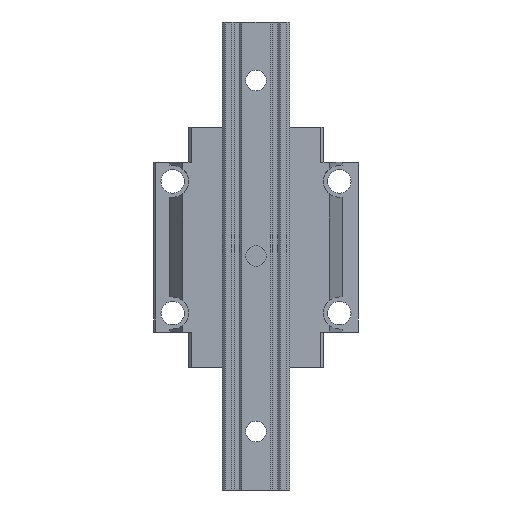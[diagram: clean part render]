
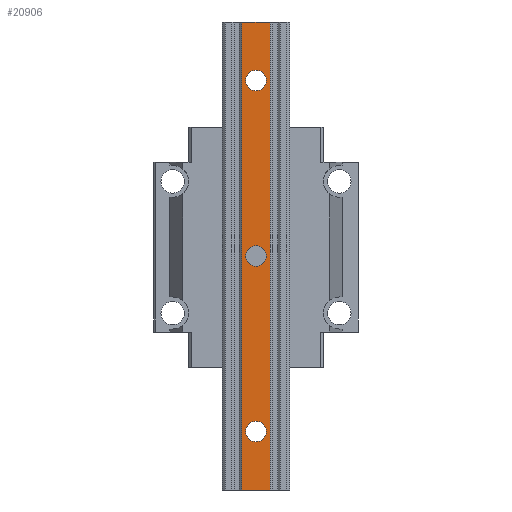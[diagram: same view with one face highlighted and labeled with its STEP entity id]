
A CAD part, front view. The second image highlights one B-rep face of the part: STEP entity #20906.
In plain terms, the highlighted planar face has unit normal (0, -1, 0).
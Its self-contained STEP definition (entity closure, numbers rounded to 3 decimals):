
#51 = DIRECTION ( 'NONE',  ( 0., 0., 1. ) ) ;
#143 = AXIS2_PLACEMENT_3D ( 'NONE', #9949, #12646, #23638 ) ;
#462 = AXIS2_PLACEMENT_3D ( 'NONE', #9806, #4100, #8806 ) ;
#514 = LINE ( 'NONE', #8845, #15425 ) ;
#544 = EDGE_CURVE ( 'NONE', #15741, #30303, #7466, .T. ) ;
#568 = ORIENTED_EDGE ( 'NONE', *, *, #6011, .T. ) ;
#813 = DIRECTION ( 'NONE',  ( 0., 0., -1. ) ) ;
#2301 = CARTESIAN_POINT ( 'NONE',  ( -4.929, 0., -460. ) ) ;
#2414 = CARTESIAN_POINT ( 'NONE',  ( 0., 0., -443.5 ) ) ;
#2555 = VECTOR ( 'NONE', #20830, 1000. ) ;
#2697 = CIRCLE ( 'NONE', #462, 3.5 ) ;
#3089 = CARTESIAN_POINT ( 'NONE',  ( -11.5, 0., -491.828 ) ) ;
#3358 = CIRCLE ( 'NONE', #23894, 3.5 ) ;
#3962 = DIRECTION ( 'NONE',  ( 0., 0., 1. ) ) ;
#4093 = EDGE_CURVE ( 'NONE', #30793, #27334, #19524, .T. ) ;
#4100 = DIRECTION ( 'NONE',  ( 0., 1., 0. ) ) ;
#4934 = VECTOR ( 'NONE', #3962, 1000. ) ;
#5513 = ORIENTED_EDGE ( 'NONE', *, *, #4093, .T. ) ;
#5676 = VERTEX_POINT ( 'NONE', #2414 ) ;
#5979 = AXIS2_PLACEMENT_3D ( 'NONE', #9877, #31322, #20831 ) ;
#6011 = EDGE_CURVE ( 'NONE', #30303, #12656, #23723, .T. ) ;
#6052 = EDGE_LOOP ( 'NONE', ( #6094, #5513 ) ) ;
#6094 = ORIENTED_EDGE ( 'NONE', *, *, #16249, .T. ) ;
#6548 = CARTESIAN_POINT ( 'NONE',  ( 0., 0., -316.5 ) ) ;
#6690 = EDGE_LOOP ( 'NONE', ( #32879, #33572 ) ) ;
#7466 = LINE ( 'NONE', #26560, #22968 ) ;
#8191 = CARTESIAN_POINT ( 'NONE',  ( 0., 0., -436.5 ) ) ;
#8806 = DIRECTION ( 'NONE',  ( 0., 0., 1. ) ) ;
#8845 = CARTESIAN_POINT ( 'NONE',  ( -4.929, 0., -491.828 ) ) ;
#9503 = VERTEX_POINT ( 'NONE', #32065 ) ;
#9593 = ORIENTED_EDGE ( 'NONE', *, *, #11628, .T. ) ;
#9742 = CIRCLE ( 'NONE', #18303, 3.5 ) ;
#9806 = CARTESIAN_POINT ( 'NONE',  ( 0., 0., -440. ) ) ;
#9830 = EDGE_CURVE ( 'NONE', #12656, #9503, #21178, .T. ) ;
#9877 = CARTESIAN_POINT ( 'NONE',  ( 0., 0., -320. ) ) ;
#9879 = VERTEX_POINT ( 'NONE', #27527 ) ;
#9923 = CARTESIAN_POINT ( 'NONE',  ( 4.929, 0., -300. ) ) ;
#9949 = CARTESIAN_POINT ( 'NONE',  ( 0., 0., -380. ) ) ;
#10050 = EDGE_LOOP ( 'NONE', ( #9593, #20740, #568, #11465 ) ) ;
#10376 = AXIS2_PLACEMENT_3D ( 'NONE', #3089, #17035, #813 ) ;
#10523 = DIRECTION ( 'NONE',  ( 0., 0., 1. ) ) ;
#11465 = ORIENTED_EDGE ( 'NONE', *, *, #9830, .T. ) ;
#11628 = EDGE_CURVE ( 'NONE', #9503, #15741, #514, .T. ) ;
#12646 = DIRECTION ( 'NONE',  ( 0., 1., 0. ) ) ;
#12656 = VERTEX_POINT ( 'NONE', #9923 ) ;
#14359 = FACE_BOUND ( 'NONE', #28611, .T. ) ;
#14938 = CARTESIAN_POINT ( 'NONE',  ( 0., 0., -383.5 ) ) ;
#15013 = CARTESIAN_POINT ( 'NONE',  ( 0., 0., -376.5 ) ) ;
#15021 = EDGE_CURVE ( 'NONE', #26183, #9879, #26593, .T. ) ;
#15425 = VECTOR ( 'NONE', #28118, 1000. ) ;
#15741 = VERTEX_POINT ( 'NONE', #2301 ) ;
#15820 = ORIENTED_EDGE ( 'NONE', *, *, #28364, .T. ) ;
#15887 = DIRECTION ( 'NONE',  ( 1., 0., 0. ) ) ;
#16124 = CARTESIAN_POINT ( 'NONE',  ( 0., 0., -440. ) ) ;
#16249 = EDGE_CURVE ( 'NONE', #27334, #30793, #9742, .T. ) ;
#16462 = DIRECTION ( 'NONE',  ( 0., 1., 0. ) ) ;
#17035 = DIRECTION ( 'NONE',  ( 0., -1., 0. ) ) ;
#17210 = PLANE ( 'NONE',  #10376 ) ;
#18303 = AXIS2_PLACEMENT_3D ( 'NONE', #33069, #16462, #51 ) ;
#19524 = CIRCLE ( 'NONE', #143, 3.5 ) ;
#20076 = FACE_BOUND ( 'NONE', #6690, .T. ) ;
#20740 = ORIENTED_EDGE ( 'NONE', *, *, #544, .T. ) ;
#20830 = DIRECTION ( 'NONE',  ( -1., 0., 0. ) ) ;
#20831 = DIRECTION ( 'NONE',  ( 0., 0., 1. ) ) ;
#20906 = ADVANCED_FACE ( 'NONE', ( #20076, #33281, #14359, #31093 ), #17210, .T. ) ;
#21178 = LINE ( 'NONE', #32206, #2555 ) ;
#22443 = DIRECTION ( 'NONE',  ( 0., 1., 0. ) ) ;
#22968 = VECTOR ( 'NONE', #15887, 1000. ) ;
#23638 = DIRECTION ( 'NONE',  ( 0., 0., 1. ) ) ;
#23723 = LINE ( 'NONE', #28625, #4934 ) ;
#23894 = AXIS2_PLACEMENT_3D ( 'NONE', #16124, #22443, #24429 ) ;
#23973 = AXIS2_PLACEMENT_3D ( 'NONE', #32488, #29477, #10523 ) ;
#24429 = DIRECTION ( 'NONE',  ( 0., 0., 1. ) ) ;
#26183 = VERTEX_POINT ( 'NONE', #6548 ) ;
#26560 = CARTESIAN_POINT ( 'NONE',  ( 0., 0., -460. ) ) ;
#26593 = CIRCLE ( 'NONE', #5979, 3.5 ) ;
#27311 = EDGE_CURVE ( 'NONE', #30394, #5676, #2697, .T. ) ;
#27334 = VERTEX_POINT ( 'NONE', #15013 ) ;
#27527 = CARTESIAN_POINT ( 'NONE',  ( 0., 0., -323.5 ) ) ;
#28118 = DIRECTION ( 'NONE',  ( 0., 0., -1. ) ) ;
#28364 = EDGE_CURVE ( 'NONE', #5676, #30394, #3358, .T. ) ;
#28611 = EDGE_LOOP ( 'NONE', ( #31351, #15820 ) ) ;
#28625 = CARTESIAN_POINT ( 'NONE',  ( 4.929, 0., -491.828 ) ) ;
#29294 = EDGE_CURVE ( 'NONE', #9879, #26183, #30310, .T. ) ;
#29477 = DIRECTION ( 'NONE',  ( 0., 1., 0. ) ) ;
#30303 = VERTEX_POINT ( 'NONE', #34648 ) ;
#30310 = CIRCLE ( 'NONE', #23973, 3.5 ) ;
#30394 = VERTEX_POINT ( 'NONE', #8191 ) ;
#30793 = VERTEX_POINT ( 'NONE', #14938 ) ;
#31093 = FACE_OUTER_BOUND ( 'NONE', #10050, .T. ) ;
#31322 = DIRECTION ( 'NONE',  ( 0., 1., 0. ) ) ;
#31351 = ORIENTED_EDGE ( 'NONE', *, *, #27311, .T. ) ;
#32065 = CARTESIAN_POINT ( 'NONE',  ( -4.929, 0., -300. ) ) ;
#32206 = CARTESIAN_POINT ( 'NONE',  ( 11.5, 0., -300. ) ) ;
#32488 = CARTESIAN_POINT ( 'NONE',  ( 0., 0., -320. ) ) ;
#32879 = ORIENTED_EDGE ( 'NONE', *, *, #15021, .T. ) ;
#33069 = CARTESIAN_POINT ( 'NONE',  ( 0., 0., -380. ) ) ;
#33281 = FACE_BOUND ( 'NONE', #6052, .T. ) ;
#33572 = ORIENTED_EDGE ( 'NONE', *, *, #29294, .T. ) ;
#34648 = CARTESIAN_POINT ( 'NONE',  ( 4.929, 0., -460. ) ) ;
